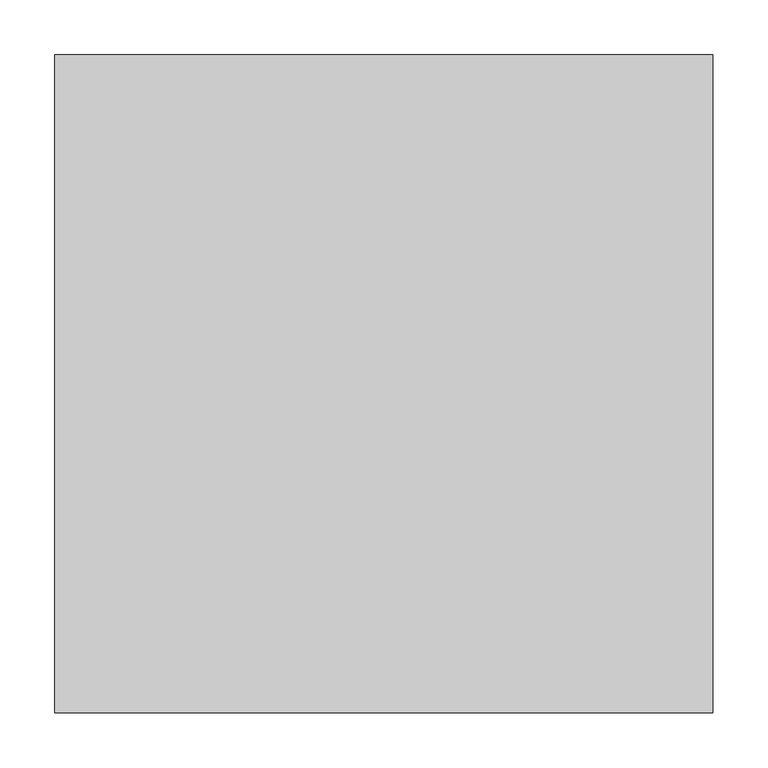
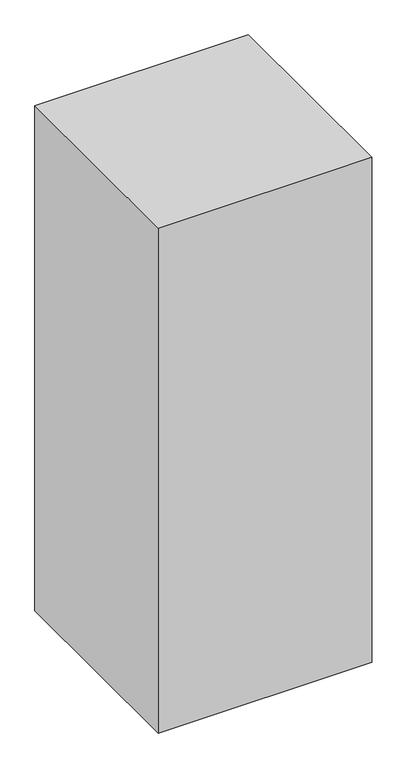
"""IFC4 building model written with IfcOpenShell, lengths in millimetres: proxy geometry, AI_Eqpmt elec_Tableau Electrique : Baie de brassage 600x600."""

from ifc_helpers import new_model, si_unit, origin, origin_with_axes, place, context, project, spatial, polyline, outline, extrude, source, transform, mapped, element, save


def electrical_equipment_537ff069(model_context):
    return source(origin(), model_context, "Body", "SweptSolid", [
        extrude(outline(polyline([(600.0, 0.0), (0.0, 0.0), (0.0, 600.0), (600.0, 600.0), (600.0, 0.0)])), origin_with_axes(), (0.0, 0.0, 1.0), 1500.0),
    ])


if __name__ == "__main__":
    model = new_model("IFC4")
    model_context = context("Model", 3, world=origin())
    ifc_project = project(units=[si_unit("LENGTHUNIT", "METRE", prefix="MILLI")], contexts=[model_context])
    site = spatial("IfcSite", under=ifc_project)
    building = spatial("IfcBuilding", under=site)
    placement = place(None, origin())
    electrical_equipment_shape = electrical_equipment_537ff069(model_context)
    element("IfcBuildingElementProxy", 1, Name="AI_Eqpmt elec_Tableau Electrique : Baie de brassage 600x600", ObjectType="AI_Eqpmt elec_Tableau Electrique : Baie de brassage 600x600", at=placement, inside=building, context=model_context, shape_type="MappedRepresentation", body=[
        mapped(electrical_equipment_shape, transform((0.0, 0.0, 0.0), x_axis=(1.0, 0.0, 0.0), y_axis=(0.0, 1.0, 0.0), z_axis=(0.0, 0.0, 1.0))),
    ])
    save(model, "model.ifc")
